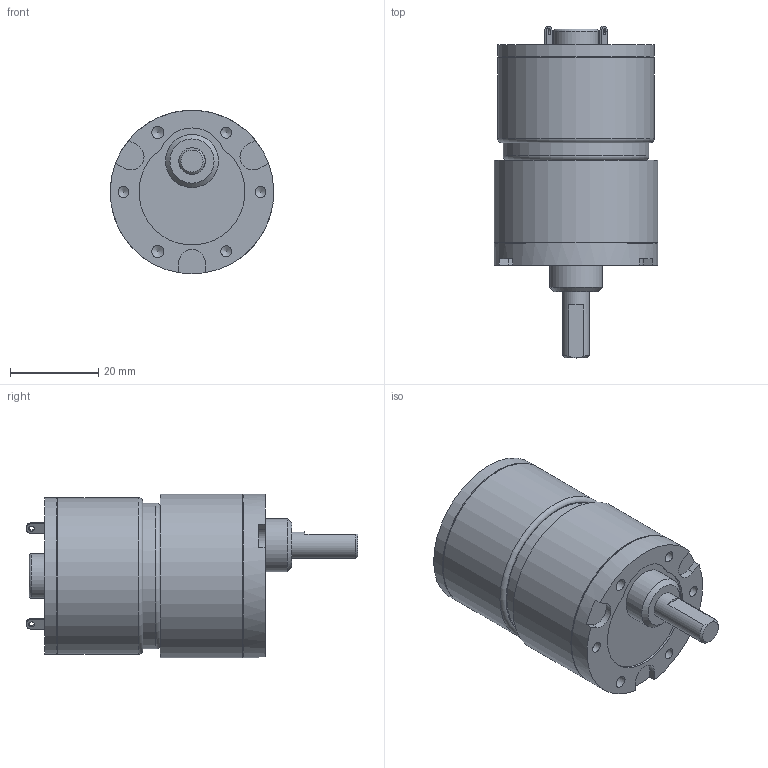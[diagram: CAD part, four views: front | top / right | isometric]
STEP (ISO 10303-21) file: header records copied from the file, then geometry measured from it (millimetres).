
FILE_DESCRIPTION((''),'2;1');
FILE_NAME('C:\Documents and Settings\SSEGAWA\デスクトップ\TP-3526A-KS-3.STP','2013-07-05T16:00:46',('SSEGAWA'),(''),'Autodesk Inventor 2010','Autodesk Inventor 2010','');
FILE_SCHEMA(('CONFIG_CONTROL_DESIGN'));
Length unit declared in the file: millimetre
Products named in the file (3): tp_3526abcj_ks_3; ks_3; tp_3526a,b,c,j
Assembly tree (2 placements, depth 2):
  tp_3526abcj_ks_3
    ks_3
    tp_3526a,b,c,j
Bounding box: 37 x 75.1 x 37 mm (x, y, z)
Volume: 51766 mm3; surface area: 11031.6 mm2
Topology: 3 solids, 3 shells, 82 faces, 188 edges, 125 vertices
Faces by surface type: plane 36, bspline 21, cylinder 20, torus 3, cone 2
Full cylindrical faces by diameter (mm): 2 x1, 4 x1, 6 x1, 10 x2, 12 x1, 33 x1, 35 x1, 35.4 x2, 36.6 x1, 37 x2
Entity records: 2313 total; most frequent: CARTESIAN_POINT 700, DIRECTION 329, ORIENTED_EDGE 250, AXIS2_PLACEMENT_3D 140, EDGE_LOOP 137, EDGE_CURVE 125, VERTEX_POINT 100, FACE_OUTER_BOUND 82
